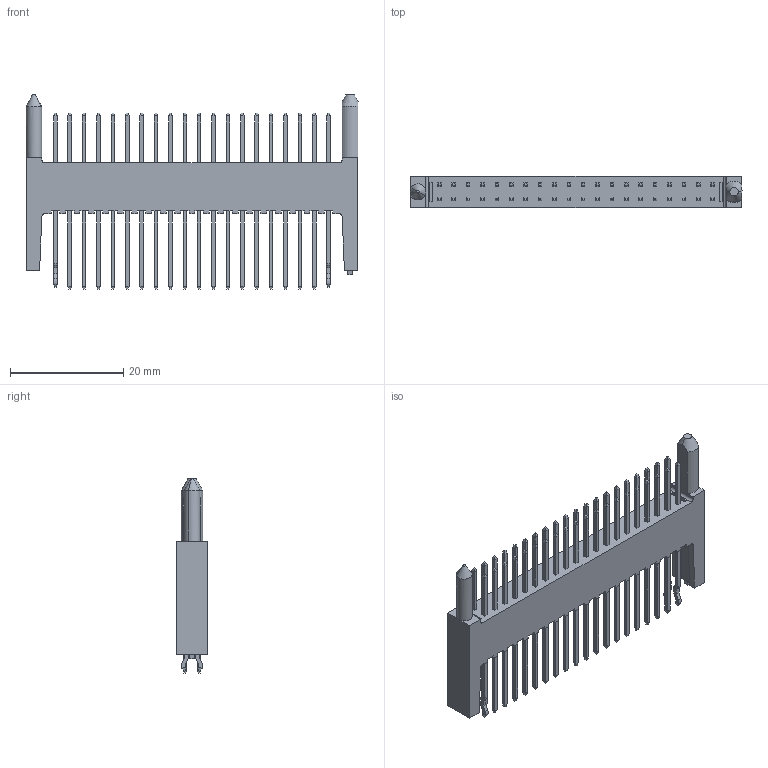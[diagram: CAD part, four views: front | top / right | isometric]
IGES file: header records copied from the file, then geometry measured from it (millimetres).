
Start section: START RECORD GO HERE.
Global section: file name: 00_9072_240_101_xxx_+.igs; native system: IBM CATIA IGES - CATIA Version 5 Release 14 ; preprocessor: CATIA Version 5 Release 14 ; author: Engineering Dept.; organization: KYOCERA ELCO Corporation; date: 20090204.103240; units: millimetre
Bounding box: 58.66 x 5.5 x 34.3 mm (x, y, z)
Surface area: 4846.6 mm2 (no closed solid volume)
Topology: 0 solids, 0 shells, 991 faces, 4368 edges, 4368 vertices
Faces by surface type: plane 957, revolution 34
